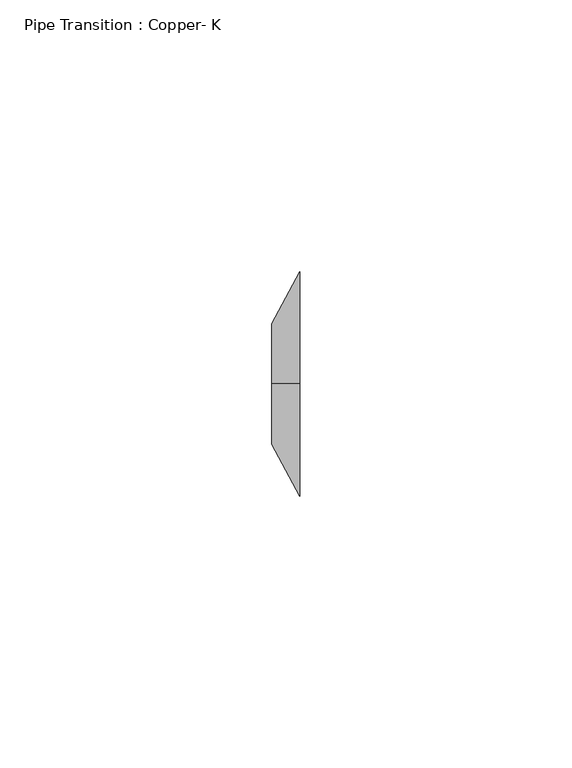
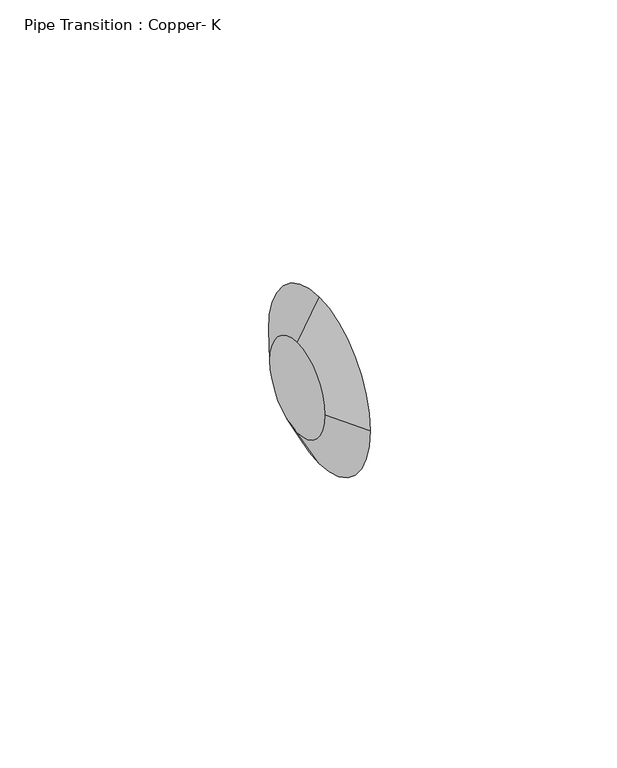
"""IFC4 building model written with IfcOpenShell, lengths in millimetres: pipe fitting geometry, Pipe Transition : Copper- K."""

from ifc_helpers import new_model, si_unit, frame, origin, place, context, project, spatial, polyline, circle_curve, source, transform, mapped, element, save
from ifc_brep_helpers import plane_surface, revolved_surface, advanced_brep


def pipe_transition_copper_k_614bbec4(model_context):
    return source(origin(), model_context, "Body", "AdvancedBrep", [
        advanced_brep(
        [(5.159375, 0.0, 20.6375), (5.159375, -20.6375, 0.0), (5.159375, 0.0, -20.6375), (5.159375, 20.6375, 0.0), (0.0, 0.0, 11.1125), (0.0, 11.1125, 0.0), (0.0, 0.0, -11.1125), (0.0, -11.1125, 0.0)],
        [
            (0, 1, circle_curve(frame((5.159375, 0.0, 0.0), z_axis=(1.0, 0.0, 0.0), x_axis=(0.0, 0.0, 1.0)), 20.6375)),
            (1, 2, circle_curve(frame((5.159375, 0.0, 0.0), z_axis=(1.0, 0.0, 0.0), x_axis=(0.0, -1.0, 0.0)), 20.6375)),
            (2, 3, circle_curve(frame((5.159375, 0.0, 0.0), z_axis=(1.0, 0.0, 0.0), x_axis=(0.0, 0.0, -1.0)), 20.6375)),
            (3, 0, circle_curve(frame((5.159375, 0.0, 0.0), z_axis=(1.0, 0.0, 0.0), x_axis=(0.0, 1.0, 0.0)), 20.6375)),
            (4, 5, circle_curve(frame((0.0, 0.0, 0.0), z_axis=(-1.0, 0.0, 0.0), x_axis=(0.0, 1.0, 0.0)), 11.1125)),
            (5, 6, circle_curve(frame((0.0, 0.0, 0.0), z_axis=(-1.0, 0.0, 0.0), x_axis=(0.0, 0.0, -1.0)), 11.1125)),
            (6, 7, circle_curve(frame((0.0, 0.0, 0.0), z_axis=(-1.0, 0.0, 0.0), x_axis=(0.0, -1.0, 0.0)), 11.1125)),
            (7, 4, circle_curve(frame((0.0, 0.0, 0.0), z_axis=(-1.0, 0.0, 0.0), x_axis=(0.0, 0.0, 1.0)), 11.1125)),
            (7, 1),
            (0, 4),
            (6, 2),
            (5, 3),
        ],
        [
            plane_surface(frame((5.159375, 0.0, 0.0), z_axis=(1.0, 0.0, 0.0), x_axis=(0.0, -1.0, 0.0))),
            plane_surface(frame((0.0, 0.0, 0.0), z_axis=(-1.0, 0.0, 0.0), x_axis=(0.0, -1.0, 0.0))),
            revolved_surface(polyline([(0.0, -11.112499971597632, 0.0), (5.159375, -20.6375, 0.0)]), (-6.0192708, 0.0, 0.0), (1.0, 0.0, 0.0)),
            revolved_surface(polyline([(0.0, 0.0, -11.112499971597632), (5.159375, 0.0, -20.6375)]), (-6.0192708, 0.0, 0.0), (1.0, 0.0, 0.0)),
            revolved_surface(polyline([(0.0, 11.112499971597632, 0.0), (5.159375, 20.6375, 0.0)]), (-6.0192708, 0.0, 0.0), (1.0, 0.0, 0.0)),
            revolved_surface(polyline([(0.0, 0.0, 11.112499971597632), (5.159375, 0.0, 20.6375)]), (-6.0192708, 0.0, 0.0), (1.0, 0.0, 0.0)),
        ],
        [
            (0, [[1, 2, 3, 4]]),
            (1, [[5, 6, 7, 8]]),
            (2, [[-8, 9, -1, 10]]),
            (3, [[-7, 11, -2, -9]]),
            (4, [[-6, 12, -3, -11]]),
            (5, [[-5, -10, -4, -12]]),
        ],
    ),
        advanced_brep(
        [(5.159375, 0.0, 20.6375), (5.159375, -20.6375, 0.0), (5.159375, 0.0, -20.6375), (5.159375, 20.6375, 0.0), (0.0, 0.0, 11.1125), (0.0, 11.1125, 0.0), (0.0, 0.0, -11.1125), (0.0, -11.1125, 0.0)],
        [
            (0, 1, circle_curve(frame((5.159375, 0.0, 0.0), z_axis=(1.0, 0.0, -1.6220240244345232e-12), x_axis=(1.6220414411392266e-12, 0.0, 1.0)), 20.6375)),
            (1, 2, circle_curve(frame((5.159375, 0.0, 0.0), z_axis=(1.0, 0.0, -1.5564354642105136e-12), x_axis=(0.0, -1.0, 0.0)), 20.6375)),
            (2, 3, circle_curve(frame((5.159375, 0.0, 0.0), z_axis=(1.0, 0.0, -2.5275879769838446e-12), x_axis=(-2.5276018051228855e-12, 0.0, -1.0)), 20.6375)),
            (3, 0, circle_curve(frame((5.159375, 0.0, 0.0), z_axis=(1.0, 0.0, 0.0), x_axis=(0.0, 1.0, 0.0)), 20.6375)),
            (4, 5, circle_curve(frame((0.0, 0.0, 0.0), z_axis=(-1.0, 0.0, 0.0), x_axis=(0.0, 1.0, 0.0)), 11.1125)),
            (5, 6, circle_curve(frame((0.0, 0.0, 0.0), z_axis=(-1.0, 0.0, 2.5275879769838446e-12), x_axis=(-2.5276018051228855e-12, 0.0, -1.0)), 11.1125)),
            (6, 7, circle_curve(frame((0.0, 0.0, 0.0), z_axis=(-1.0, 0.0, 1.5564354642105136e-12), x_axis=(0.0, -1.0, 0.0)), 11.1125)),
            (7, 4, circle_curve(frame((0.0, 0.0, 0.0), z_axis=(-1.0, 0.0, 1.6220240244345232e-12), x_axis=(1.6220414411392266e-12, 0.0, 1.0)), 11.1125)),
            (7, 1),
            (0, 4),
            (6, 2),
            (5, 3),
        ],
        [
            plane_surface(frame((5.159375, 0.0, 0.0), z_axis=(1.0, 0.0, 0.0), x_axis=(0.0, -1.0, 0.0))),
            plane_surface(frame((0.0, 0.0, 0.0), z_axis=(-1.0, 0.0, 0.0), x_axis=(0.0, -1.0, 0.0))),
            revolved_surface(polyline([(-1.802469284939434e-11, -11.112499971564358, 0.0), (5.159375, -20.6375, 0.0)]), (-6.0192708, 0.0, 0.0), (1.0, 0.0, -1.6220240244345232e-12)),
            revolved_surface(polyline([(-1.729549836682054e-11, 0.0, -11.112499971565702), (5.159375, 0.0, -20.6375)]), (-6.0192708, 0.0, 0.0), (1.0, 0.0, -1.5564354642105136e-12)),
            revolved_surface(polyline([(0.0, 11.112499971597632, 0.0), (5.1593750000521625, 20.6375000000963, 0.0)]), (-6.0192708, 0.0, 0.0), (1.0, 0.0, -2.5275879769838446e-12)),
            revolved_surface(polyline([(0.0, 0.0, 11.112499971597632), (5.159375, 0.0, 20.6375)]), (-6.0192708, 0.0, 0.0), (1.0, 0.0, 0.0)),
        ],
        [
            (0, [[1, 2, 3, 4]]),
            (1, [[5, 6, 7, 8]]),
            (2, [[-8, 9, -1, 10]]),
            (3, [[-7, 11, -2, -9]]),
            (4, [[-6, 12, -3, -11]]),
            (5, [[-5, -10, -4, -12]]),
        ],
    ),
    ])


if __name__ == "__main__":
    model = new_model("IFC4")
    model_context = context("Model", 3, world=origin())
    ifc_project = project(units=[si_unit("LENGTHUNIT", "METRE", prefix="MILLI")], contexts=[model_context])
    site = spatial("IfcSite", under=ifc_project)
    building = spatial("IfcBuilding", under=site)
    placement = place(None, origin())
    pipe_transition_copper_k_shape = pipe_transition_copper_k_614bbec4(model_context)
    element("IfcPipeFitting", 1, ObjectType="Pipe Transition : Copper- K", at=placement, inside=building, context=model_context, shape_type="MappedRepresentation", body=[
        mapped(pipe_transition_copper_k_shape, transform((0.0, 0.0, 0.0), x_axis=(1.0, 0.0, 0.0), y_axis=(0.0, 1.0, 0.0), z_axis=(0.0, 0.0, 1.0))),
    ])
    save(model, "model.ifc")
